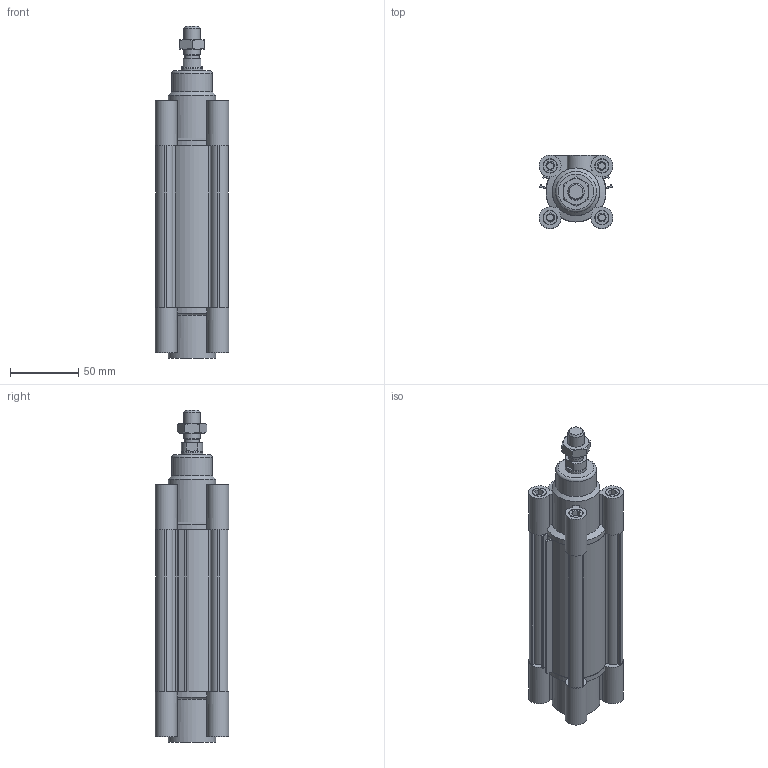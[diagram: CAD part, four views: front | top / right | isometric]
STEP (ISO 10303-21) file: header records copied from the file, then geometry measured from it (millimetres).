
FILE_DESCRIPTION((''),'2;1');
FILE_NAME('I:\Area Tecnica\Disegni\VARIE-3D\Componenti\ECOLIGHT\139#.##_0000_01\stp\139#_40_0080_01.iam.stp','2012-01-28T07:58:24',(''),(''),'Autodesk Inventor 2012','Autodesk Inventor 2012','');
FILE_SCHEMA(('AUTOMOTIVE_DESIGN { 1 0 10303 214 1 1 1 1 }'));
Length unit declared in the file: millimetre
Products named in the file (6): 139#_40_0080_01; CPL040_004-80; CPL040-001-01; CPL040-002-01; CPL_40_0080; 1320_40_18F
Assembly tree (5 placements, depth 2):
  139#_40_0080_01
    CPL040_004-80
    CPL040-001-01
    CPL040-002-01
    CPL_40_0080
    1320_40_18F
Bounding box: 54 x 54 x 244 mm (x, y, z)
Volume: 296864.2 mm3; surface area: 117271.3 mm2
Topology: 5 solids, 5 shells, 316 faces, 788 edges, 522 vertices
Faces by surface type: plane 200, cylinder 91, cone 24, torus 1
Full cylindrical faces by diameter (mm): 5 x8, 5.5 x4, 8 x2, 10 x8, 10.5 x9, 10.8 x1, 11.6 x2, 12 x1, 15.5 x1, 16 x2, 30 x1, 35 x2, 40 x4
Entity records: 9416 total; most frequent: CARTESIAN_POINT 1761, DIRECTION 1538, ORIENTED_EDGE 1442, EDGE_CURVE 721, AXIS2_PLACEMENT_3D 544, VERTEX_POINT 507, VECTOR 450, LINE 450
